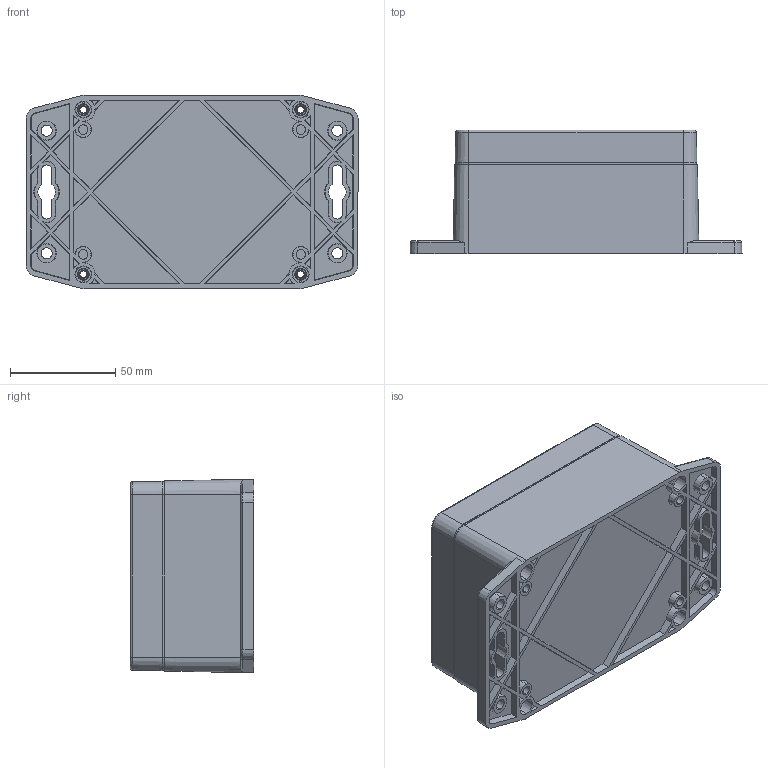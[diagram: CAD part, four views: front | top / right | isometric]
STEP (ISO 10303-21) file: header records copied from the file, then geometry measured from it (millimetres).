
FILE_DESCRIPTION (( 'STEP AP203' ), '1' );
FILE_NAME ('SF-222-0-0.STEP', '2020-02-22T06:40:09', ( '' ), ( '' ), 'SwSTEP 2.0', 'SolidWorks 2020', '' );
FILE_SCHEMA (( 'CONFIG_CONTROL_DESIGN' ));
Length unit declared in the file: millimetre
Products named in the file (4): SE-222-P-1; SF-222-0-0; SF-222-P-2; SE-222_pcb_sample
Assembly tree (3 placements, depth 2):
  SF-222-0-0
    SF-222-P-2
    SE-222-P-1
    SE-222_pcb_sample
Bounding box: 157.7 x 58.6 x 91.91 mm (x, y, z)
Volume: 176527.5 mm3; surface area: 131067.2 mm2
Topology: 7 solids, 7 shells, 1091 faces, 2904 edges, 1906 vertices
Faces by surface type: plane 359, cylinder 266, bspline 232, cone 226, torus 8
Entity records: 36872 total; most frequent: CARTESIAN_POINT 10481, ORIENTED_EDGE 5772, DIRECTION 4962, EDGE_CURVE 2886, VERTEX_POINT 1906, AXIS2_PLACEMENT_3D 1783, VECTOR 1396, LINE 1396
